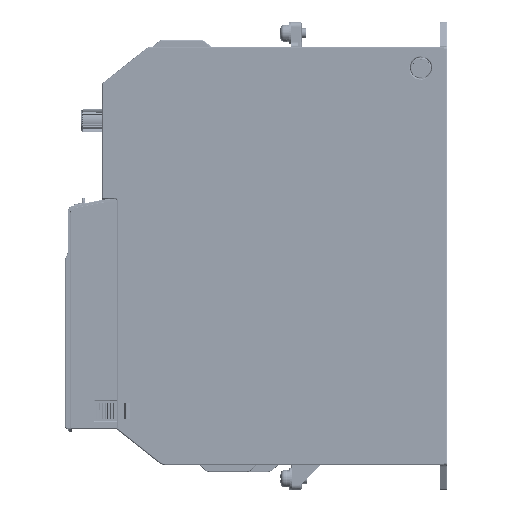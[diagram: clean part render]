
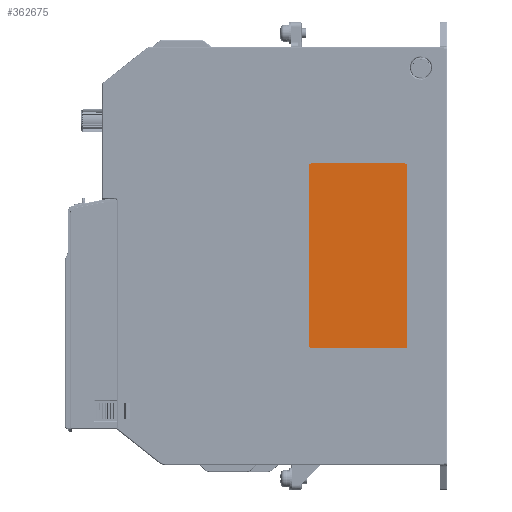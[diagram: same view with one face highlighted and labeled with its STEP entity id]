
A CAD part, top view. The second image highlights one B-rep face of the part: STEP entity #362675.
In plain terms, the highlighted planar face has unit normal (0, 0, 1).
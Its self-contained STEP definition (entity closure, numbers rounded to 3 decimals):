
#242406=CARTESIAN_POINT('',(-23.5,36.5,59.5));
#242407=DIRECTION('',(0.,0.,1.));
#242408=DIRECTION('',(0.,1.,0.));
#242409=AXIS2_PLACEMENT_3D('',#242406,#242407,#242408);
#242411=CARTESIAN_POINT('',(14.5,36.5,59.5));
#242412=DIRECTION('',(0.,0.,1.));
#242413=DIRECTION('',(1.,0.,0.));
#242414=AXIS2_PLACEMENT_3D('',#242411,#242412,#242413);
#242416=DIRECTION('',(0.,1.,0.));
#242417=VECTOR('',#242416,73.);
#242418=CARTESIAN_POINT('',(15.5,-36.5,59.5));
#242419=LINE('',#242418,#242417);
#242420=CARTESIAN_POINT('',(14.5,-36.5,59.5));
#242421=DIRECTION('',(0.,0.,1.));
#242422=DIRECTION('',(0.,-1.,0.));
#242423=AXIS2_PLACEMENT_3D('',#242420,#242421,#242422);
#242425=CARTESIAN_POINT('',(-23.5,-36.5,59.5));
#242426=DIRECTION('',(0.,0.,1.));
#242427=DIRECTION('',(-1.,0.,0.));
#242428=AXIS2_PLACEMENT_3D('',#242425,#242426,#242427);
#242438=DIRECTION('',(0.,-1.,0.));
#242439=VECTOR('',#242438,73.);
#242440=CARTESIAN_POINT('',(-24.5,36.5,59.5));
#242441=LINE('',#242440,#242439);
#242454=DIRECTION('',(1.,0.,0.));
#242455=VECTOR('',#242454,38.);
#242456=CARTESIAN_POINT('',(-23.5,-37.5,59.5));
#242457=LINE('',#242456,#242455);
#242474=DIRECTION('',(-1.,0.,0.));
#242475=VECTOR('',#242474,38.);
#242476=CARTESIAN_POINT('',(14.5,37.5,59.5));
#242477=LINE('',#242476,#242475);
#260800=CARTESIAN_POINT('',(15.5,36.5,59.5));
#260801=VERTEX_POINT('',#260800);
#260802=CARTESIAN_POINT('',(15.5,-36.5,59.5));
#260803=VERTEX_POINT('',#260802);
#260804=CARTESIAN_POINT('',(14.5,37.5,59.5));
#260805=VERTEX_POINT('',#260804);
#260806=CARTESIAN_POINT('',(-23.5,37.5,59.5));
#260807=CARTESIAN_POINT('',(-24.5,36.5,59.5));
#260808=VERTEX_POINT('',#260806);
#260809=VERTEX_POINT('',#260807);
#260810=CARTESIAN_POINT('',(14.5,-37.5,59.5));
#260811=VERTEX_POINT('',#260810);
#260812=CARTESIAN_POINT('',(-23.5,-37.5,59.5));
#260813=VERTEX_POINT('',#260812);
#260814=CARTESIAN_POINT('',(-24.5,-36.5,59.5));
#260815=VERTEX_POINT('',#260814);
#362654=CARTESIAN_POINT('',(-4.5,0.,59.5));
#362655=DIRECTION('',(0.,0.,1.));
#362656=DIRECTION('',(1.,0.,0.));
#362657=AXIS2_PLACEMENT_3D('',#362654,#362655,#362656);
#362658=PLANE('',#362657);
#362660=ORIENTED_EDGE('',*,*,#362659,.F.);
#362662=ORIENTED_EDGE('',*,*,#362661,.F.);
#362663=ORIENTED_EDGE('',*,*,#362645,.F.);
#362664=ORIENTED_EDGE('',*,*,#362635,.F.);
#362666=ORIENTED_EDGE('',*,*,#362665,.F.);
#362668=ORIENTED_EDGE('',*,*,#362667,.F.);
#362670=ORIENTED_EDGE('',*,*,#362669,.F.);
#362672=ORIENTED_EDGE('',*,*,#362671,.F.);
#362673=EDGE_LOOP('',(#362660,#362662,#362663,#362664,#362666,#362668,#362670,
#362672));
#362674=FACE_OUTER_BOUND('',#362673,.F.);
#362675=ADVANCED_FACE('',(#362674),#362658,.T.);
#242410=CIRCLE('',#242409,1.);
#242415=CIRCLE('',#242414,1.);
#242424=CIRCLE('',#242423,1.);
#242429=CIRCLE('',#242428,1.);
#362635=EDGE_CURVE('',#260803,#260801,#242419,.T.);
#362645=EDGE_CURVE('',#260801,#260805,#242415,.T.);
#362659=EDGE_CURVE('',#260808,#260809,#242410,.T.);
#362661=EDGE_CURVE('',#260805,#260808,#242477,.T.);
#362665=EDGE_CURVE('',#260811,#260803,#242424,.T.);
#362667=EDGE_CURVE('',#260813,#260811,#242457,.T.);
#362669=EDGE_CURVE('',#260815,#260813,#242429,.T.);
#362671=EDGE_CURVE('',#260809,#260815,#242441,.T.);
